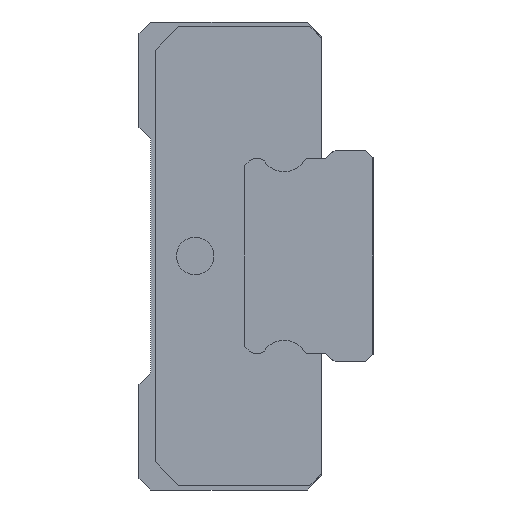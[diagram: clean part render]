
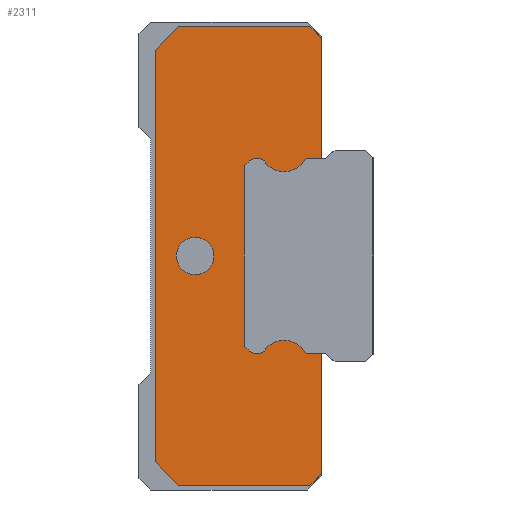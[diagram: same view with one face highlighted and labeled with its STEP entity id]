
A CAD part, left-side view. The second image highlights one B-rep face of the part: STEP entity #2311.
In plain terms, the highlighted planar face has unit normal (-1, 0, 0).
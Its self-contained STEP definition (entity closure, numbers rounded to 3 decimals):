
#87=PLANE('',#2531);
#186=LINE('',#3542,#414);
#193=LINE('',#3556,#421);
#196=LINE('',#3561,#424);
#244=LINE('',#3658,#472);
#257=LINE('',#3685,#485);
#259=LINE('',#3688,#487);
#263=LINE('',#3694,#491);
#271=LINE('',#3708,#499);
#281=LINE('',#3725,#509);
#289=LINE('',#3765,#517);
#290=LINE('',#3775,#518);
#291=LINE('',#3779,#519);
#292=LINE('',#3781,#520);
#293=LINE('',#3783,#521);
#294=LINE('',#3787,#522);
#295=LINE('',#3797,#523);
#414=VECTOR('',#2886,1000.);
#421=VECTOR('',#2897,1000.);
#424=VECTOR('',#2902,1000.);
#472=VECTOR('',#2968,1000.);
#485=VECTOR('',#2983,1000.);
#487=VECTOR('',#2987,1000.);
#491=VECTOR('',#2995,1000.);
#499=VECTOR('',#3011,1000.);
#509=VECTOR('',#3023,1000.);
#517=VECTOR('',#3059,1000.);
#518=VECTOR('',#3068,1000.);
#519=VECTOR('',#3071,1000.);
#520=VECTOR('',#3072,1000.);
#521=VECTOR('',#3073,1000.);
#522=VECTOR('',#3076,1000.);
#523=VECTOR('',#3085,1000.);
#953=ORIENTED_EDGE('',*,*,#1440,.T.);
#954=ORIENTED_EDGE('',*,*,#1441,.F.);
#955=ORIENTED_EDGE('',*,*,#1442,.T.);
#956=ORIENTED_EDGE('',*,*,#1443,.F.);
#957=ORIENTED_EDGE('',*,*,#1444,.F.);
#958=ORIENTED_EDGE('',*,*,#1445,.T.);
#959=ORIENTED_EDGE('',*,*,#1446,.T.);
#960=ORIENTED_EDGE('',*,*,#1447,.T.);
#961=ORIENTED_EDGE('',*,*,#1448,.T.);
#962=ORIENTED_EDGE('',*,*,#1449,.T.);
#963=ORIENTED_EDGE('',*,*,#1450,.T.);
#964=ORIENTED_EDGE('',*,*,#1451,.T.);
#965=ORIENTED_EDGE('',*,*,#1452,.T.);
#966=ORIENTED_EDGE('',*,*,#1453,.T.);
#967=ORIENTED_EDGE('',*,*,#1454,.F.);
#968=ORIENTED_EDGE('',*,*,#1455,.F.);
#969=ORIENTED_EDGE('',*,*,#1456,.T.);
#970=ORIENTED_EDGE('',*,*,#1457,.T.);
#971=ORIENTED_EDGE('',*,*,#1421,.F.);
#972=ORIENTED_EDGE('',*,*,#1336,.F.);
#973=ORIENTED_EDGE('',*,*,#1333,.F.);
#974=ORIENTED_EDGE('',*,*,#1326,.F.);
#975=ORIENTED_EDGE('',*,*,#1403,.F.);
#976=ORIENTED_EDGE('',*,*,#1384,.F.);
#977=ORIENTED_EDGE('',*,*,#1399,.F.);
#978=ORIENTED_EDGE('',*,*,#1397,.F.);
#979=ORIENTED_EDGE('',*,*,#1411,.F.);
#1326=EDGE_CURVE('',#1614,#1615,#186,.T.);
#1333=EDGE_CURVE('',#1615,#1618,#193,.T.);
#1336=EDGE_CURVE('',#1618,#1621,#196,.T.);
#1384=EDGE_CURVE('',#1660,#1661,#244,.T.);
#1397=EDGE_CURVE('',#1673,#1667,#257,.T.);
#1399=EDGE_CURVE('',#1667,#1660,#259,.T.);
#1403=EDGE_CURVE('',#1661,#1614,#263,.T.);
#1411=EDGE_CURVE('',#1674,#1673,#271,.T.);
#1421=EDGE_CURVE('',#1621,#1679,#281,.T.);
#1440=EDGE_CURVE('',#1699,#1699,#1817,.T.);
#1441=EDGE_CURVE('',#1700,#1674,#289,.T.);
#1442=EDGE_CURVE('',#1700,#1701,#1818,.T.);
#1443=EDGE_CURVE('',#1702,#1701,#1819,.T.);
#1444=EDGE_CURVE('',#1703,#1702,#1820,.T.);
#1445=EDGE_CURVE('',#1703,#1704,#1821,.T.);
#1446=EDGE_CURVE('',#1704,#1705,#290,.T.);
#1447=EDGE_CURVE('',#1705,#1706,#1822,.T.);
#1448=EDGE_CURVE('',#1706,#1707,#291,.T.);
#1449=EDGE_CURVE('',#1707,#1708,#292,.T.);
#1450=EDGE_CURVE('',#1708,#1709,#293,.T.);
#1451=EDGE_CURVE('',#1709,#1710,#1823,.T.);
#1452=EDGE_CURVE('',#1710,#1711,#294,.T.);
#1453=EDGE_CURVE('',#1711,#1712,#1824,.T.);
#1454=EDGE_CURVE('',#1713,#1712,#1825,.T.);
#1455=EDGE_CURVE('',#1714,#1713,#1826,.T.);
#1456=EDGE_CURVE('',#1714,#1715,#1827,.T.);
#1457=EDGE_CURVE('',#1715,#1679,#295,.T.);
#1614=VERTEX_POINT('',#3541);
#1615=VERTEX_POINT('',#3543);
#1618=VERTEX_POINT('',#3553);
#1621=VERTEX_POINT('',#3562);
#1660=VERTEX_POINT('',#3657);
#1661=VERTEX_POINT('',#3659);
#1667=VERTEX_POINT('',#3673);
#1673=VERTEX_POINT('',#3684);
#1674=VERTEX_POINT('',#3706);
#1679=VERTEX_POINT('',#3718);
#1699=VERTEX_POINT('',#3764);
#1700=VERTEX_POINT('',#3766);
#1701=VERTEX_POINT('',#3768);
#1702=VERTEX_POINT('',#3770);
#1703=VERTEX_POINT('',#3772);
#1704=VERTEX_POINT('',#3774);
#1705=VERTEX_POINT('',#3776);
#1706=VERTEX_POINT('',#3778);
#1707=VERTEX_POINT('',#3780);
#1708=VERTEX_POINT('',#3782);
#1709=VERTEX_POINT('',#3784);
#1710=VERTEX_POINT('',#3786);
#1711=VERTEX_POINT('',#3788);
#1712=VERTEX_POINT('',#3790);
#1713=VERTEX_POINT('',#3792);
#1714=VERTEX_POINT('',#3794);
#1715=VERTEX_POINT('',#3796);
#1817=CIRCLE('',#2532,0.8);
#1818=CIRCLE('',#2533,0.2);
#1819=CIRCLE('',#2534,1.);
#1820=CIRCLE('',#2535,1.1);
#1821=CIRCLE('',#2536,0.2);
#1822=CIRCLE('',#2537,0.3);
#1823=CIRCLE('',#2538,0.3);
#1824=CIRCLE('',#2539,0.2);
#1825=CIRCLE('',#2540,1.1);
#1826=CIRCLE('',#2541,1.);
#1827=CIRCLE('',#2542,0.2);
#1944=EDGE_LOOP('',(#953));
#1945=EDGE_LOOP('',(#954,#955,#956,#957,#958,#959,#960,#961,#962,#963,#964,
#965,#966,#967,#968,#969,#970,#971,#972,#973,#974,#975,#976,#977,#978,#979));
#2120=FACE_BOUND('',#1944,.T.);
#2121=FACE_BOUND('',#1945,.T.);
#2311=ADVANCED_FACE('',(#2120,#2121),#87,.F.);
#2531=AXIS2_PLACEMENT_3D('',#3762,#3055,#3056);
#2532=AXIS2_PLACEMENT_3D('',#3763,#3057,#3058);
#2533=AXIS2_PLACEMENT_3D('',#3767,#3060,#3061);
#2534=AXIS2_PLACEMENT_3D('',#3769,#3062,#3063);
#2535=AXIS2_PLACEMENT_3D('',#3771,#3064,#3065);
#2536=AXIS2_PLACEMENT_3D('',#3773,#3066,#3067);
#2537=AXIS2_PLACEMENT_3D('',#3777,#3069,#3070);
#2538=AXIS2_PLACEMENT_3D('',#3785,#3074,#3075);
#2539=AXIS2_PLACEMENT_3D('',#3789,#3077,#3078);
#2540=AXIS2_PLACEMENT_3D('',#3791,#3079,#3080);
#2541=AXIS2_PLACEMENT_3D('',#3793,#3081,#3082);
#2542=AXIS2_PLACEMENT_3D('',#3795,#3083,#3084);
#2886=DIRECTION('',(0.,-0.707,0.707));
#2897=DIRECTION('',(0.,-1.,0.));
#2902=DIRECTION('',(0.,-0.707,-0.707));
#2968=DIRECTION('',(0.,0.707,0.707));
#2983=DIRECTION('',(0.,0.707,-0.707));
#2987=DIRECTION('',(0.,1.,0.));
#2995=DIRECTION('',(0.,0.,1.));
#3011=DIRECTION('',(0.,0.,-1.));
#3023=DIRECTION('',(0.,0.,-1.));
#3055=DIRECTION('',(1.,0.,0.));
#3056=DIRECTION('',(0.,0.,-1.));
#3057=DIRECTION('',(1.,0.,0.));
#3058=DIRECTION('',(0.,0.,-1.));
#3059=DIRECTION('',(0.,-1.,0.));
#3060=DIRECTION('',(1.,0.,0.));
#3061=DIRECTION('',(0.,0.,-1.));
#3062=DIRECTION('',(1.,0.,0.));
#3063=DIRECTION('',(0.,0.,-1.));
#3064=DIRECTION('',(1.,0.,0.));
#3065=DIRECTION('',(0.,0.,-1.));
#3066=DIRECTION('',(1.,0.,0.));
#3067=DIRECTION('',(0.,0.,-1.));
#3068=DIRECTION('',(0.,1.,0.));
#3069=DIRECTION('',(1.,0.,0.));
#3070=DIRECTION('',(0.,0.,-1.));
#3071=DIRECTION('',(0.,0.707,0.707));
#3072=DIRECTION('',(0.,0.,1.));
#3073=DIRECTION('',(0.,-0.707,0.707));
#3074=DIRECTION('',(1.,0.,0.));
#3075=DIRECTION('',(0.,0.,-1.));
#3076=DIRECTION('',(0.,-1.,0.));
#3077=DIRECTION('',(1.,0.,0.));
#3078=DIRECTION('',(0.,0.,-1.));
#3079=DIRECTION('',(1.,0.,0.));
#3080=DIRECTION('',(0.,0.,-1.));
#3081=DIRECTION('',(1.,0.,0.));
#3082=DIRECTION('',(0.,0.,-1.));
#3083=DIRECTION('',(1.,0.,0.));
#3084=DIRECTION('',(0.,0.,-1.));
#3085=DIRECTION('',(0.,-1.,0.));
#3541=CARTESIAN_POINT('',(-15.4,7.1,8.8));
#3542=CARTESIAN_POINT('',(-15.4,7.1,8.8));
#3543=CARTESIAN_POINT('',(-15.4,6.1,9.8));
#3553=CARTESIAN_POINT('',(-15.4,0.5,9.8));
#3556=CARTESIAN_POINT('',(-15.4,6.1,9.8));
#3561=CARTESIAN_POINT('',(-15.4,0.5,9.8));
#3562=CARTESIAN_POINT('',(-15.4,0.,9.3));
#3657=CARTESIAN_POINT('',(-15.4,6.1,-9.8));
#3658=CARTESIAN_POINT('',(-15.4,6.1,-9.8));
#3659=CARTESIAN_POINT('',(-15.4,7.1,-8.8));
#3673=CARTESIAN_POINT('',(-15.4,0.5,-9.8));
#3684=CARTESIAN_POINT('',(-15.4,0.,-9.3));
#3685=CARTESIAN_POINT('',(-15.4,0.,-9.3));
#3688=CARTESIAN_POINT('',(-15.4,0.5,-9.8));
#3694=CARTESIAN_POINT('',(-15.4,7.1,-8.8));
#3706=CARTESIAN_POINT('',(-15.4,0.,-4.15));
#3708=CARTESIAN_POINT('',(-15.4,0.,9.3));
#3718=CARTESIAN_POINT('',(-15.4,0.,4.15));
#3725=CARTESIAN_POINT('',(-15.4,0.,9.3));
#3762=CARTESIAN_POINT('',(-15.4,0.,0.));
#3763=CARTESIAN_POINT('',(-15.4,5.4,0.));
#3764=CARTESIAN_POINT('',(-15.4,5.4,-0.8));
#3765=CARTESIAN_POINT('',(-15.4,0.,-4.15));
#3766=CARTESIAN_POINT('',(-15.4,0.591,-4.15));
#3767=CARTESIAN_POINT('',(-15.4,0.591,-3.95));
#3768=CARTESIAN_POINT('',(-15.4,0.759,-4.058));
#3769=CARTESIAN_POINT('',(-15.4,1.6,-4.6));
#3770=CARTESIAN_POINT('',(-15.4,2.2,-3.8));
#3771=CARTESIAN_POINT('',(-15.4,1.54,-4.68));
#3772=CARTESIAN_POINT('',(-15.4,2.45,-4.062));
#3773=CARTESIAN_POINT('',(-15.4,2.616,-3.95));
#3774=CARTESIAN_POINT('',(-15.4,2.616,-4.15));
#3775=CARTESIAN_POINT('',(-15.4,2.616,-4.15));
#3776=CARTESIAN_POINT('',(-15.4,2.876,-4.15));
#3777=CARTESIAN_POINT('',(-15.4,2.876,-3.85));
#3778=CARTESIAN_POINT('',(-15.4,3.088,-4.062));
#3779=CARTESIAN_POINT('',(-15.4,3.088,-4.062));
#3780=CARTESIAN_POINT('',(-15.4,3.3,-3.85));
#3781=CARTESIAN_POINT('',(-15.4,3.3,-3.85));
#3782=CARTESIAN_POINT('',(-15.4,3.3,3.85));
#3783=CARTESIAN_POINT('',(-15.4,3.3,3.85));
#3784=CARTESIAN_POINT('',(-15.4,3.088,4.062));
#3785=CARTESIAN_POINT('',(-15.4,2.876,3.85));
#3786=CARTESIAN_POINT('',(-15.4,2.876,4.15));
#3787=CARTESIAN_POINT('',(-15.4,2.876,4.15));
#3788=CARTESIAN_POINT('',(-15.4,2.616,4.15));
#3789=CARTESIAN_POINT('',(-15.4,2.616,3.95));
#3790=CARTESIAN_POINT('',(-15.4,2.45,4.062));
#3791=CARTESIAN_POINT('',(-15.4,1.54,4.68));
#3792=CARTESIAN_POINT('',(-15.4,2.2,3.8));
#3793=CARTESIAN_POINT('',(-15.4,1.6,4.6));
#3794=CARTESIAN_POINT('',(-15.4,0.759,4.058));
#3795=CARTESIAN_POINT('',(-15.4,0.591,3.95));
#3796=CARTESIAN_POINT('',(-15.4,0.591,4.15));
#3797=CARTESIAN_POINT('',(-15.4,0.591,4.15));
